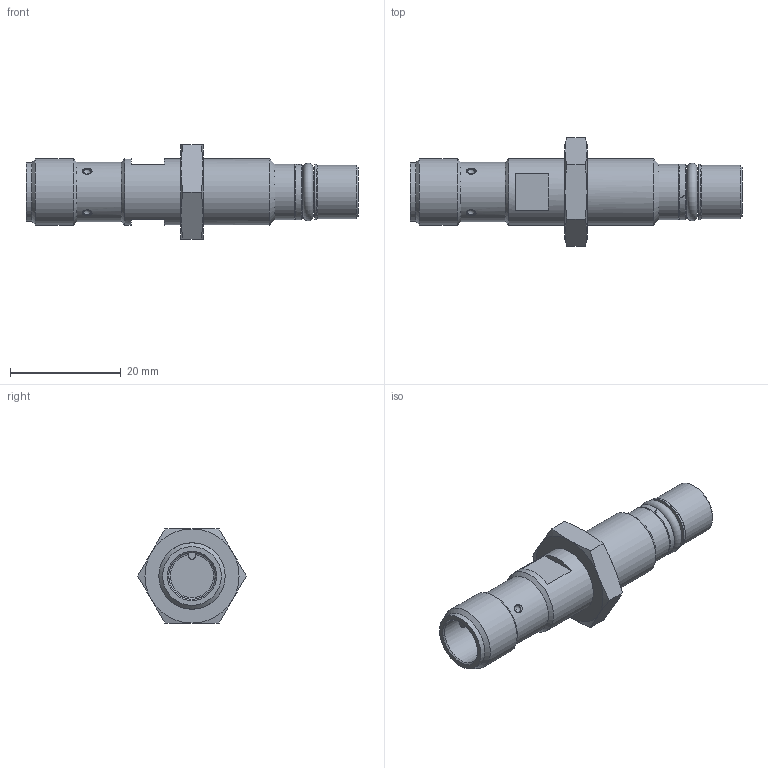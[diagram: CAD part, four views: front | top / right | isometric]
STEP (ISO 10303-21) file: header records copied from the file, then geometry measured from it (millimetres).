
FILE_DESCRIPTION( ( 'STEP AP203' ), ' ' );
FILE_NAME( 'p:/temp/worker_8/2352_3652/app_42_02015083108084409126587192d056f_000000_00_00_000000/format_2/MFH202.stp', '2015-08-31T06:08:45', ( '' ), ( '' ), ' ', 'PARTsolutions', ' ' );
FILE_SCHEMA( ( 'CONFIG_CONTROL_DESIGN' ) );
Length unit declared in the file: millimetre
Products named in the file (4): MFH202; _MFH202_d; _MFH202_p2; _MFH202_p1
Assembly tree (3 placements, depth 2):
  MFH202
    _MFH202_d
    _MFH202_p2
    _MFH202_p1
Bounding box: 60 x 19.63 x 17 mm (x, y, z)
Volume: 6067.3 mm3; surface area: 3400.5 mm2
Topology: 2 solids, 2 shells, 75 faces, 175 edges, 110 vertices
Faces by surface type: plane 27, cone 24, cylinder 13, torus 7, sphere 4
Full cylindrical faces by diameter (mm): 7.3 x2, 8.4 x1, 9.7 x1, 10 x2, 10.106 x1, 10.6 x1, 10.73 x1, 12 x2
Entity records: 2165 total; most frequent: CARTESIAN_POINT 527, DIRECTION 312, ORIENTED_EDGE 266, AXIS2_PLACEMENT_3D 140, EDGE_CURVE 133, EDGE_LOOP 112, VERTEX_POINT 102, FACE_OUTER_BOUND 92
